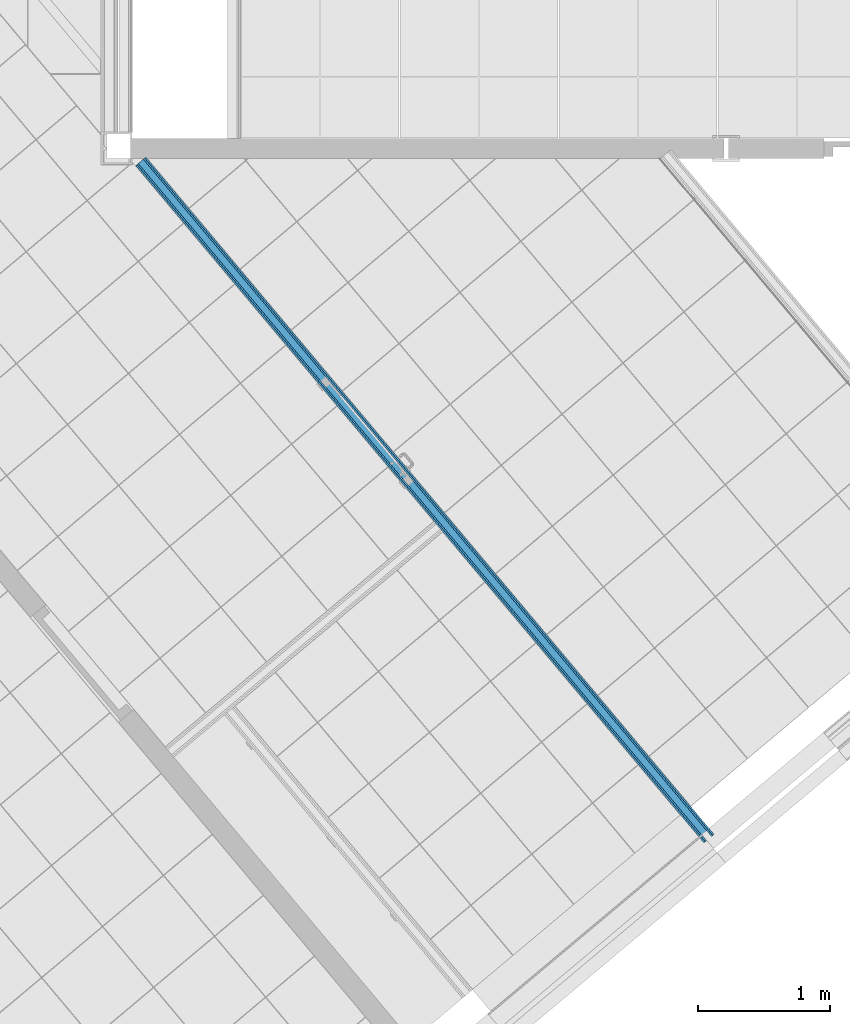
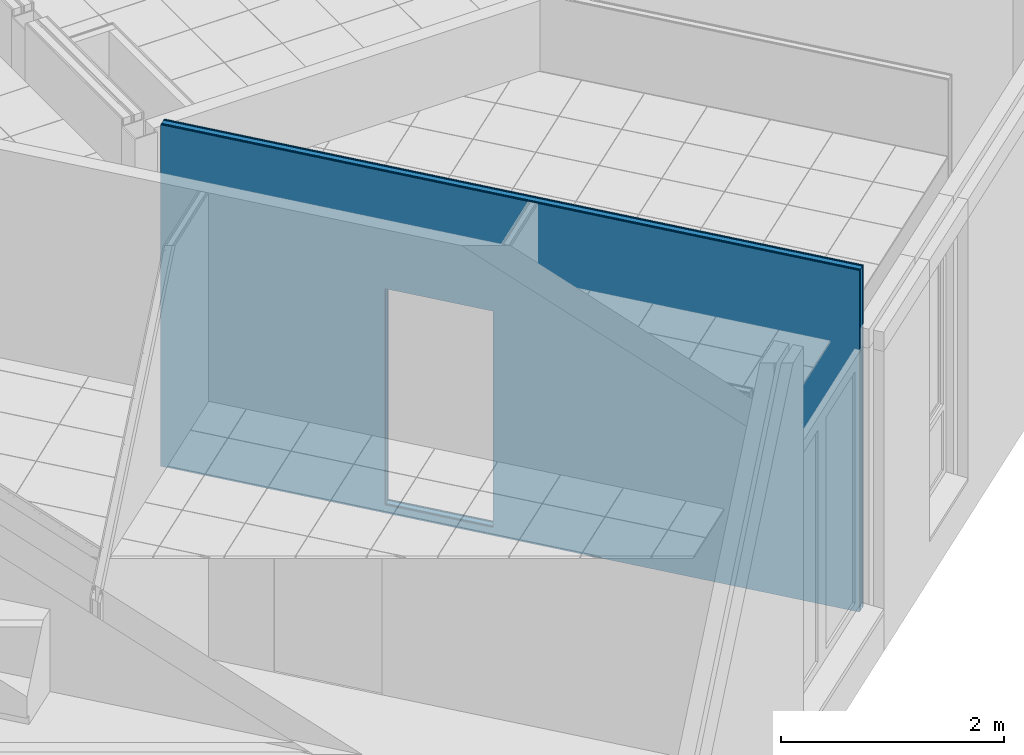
# One storey, part 24 of 338: 5 building element parts, 1 opening, 1 element without a shape of its own.
"""IFC2X3 building model written with IfcOpenShell, lengths in millimetres."""

from ifc_helpers import new_model, entity, si_unit, converted_unit, derived_unit, money_unit, direction, frame, origin_with_axes, place, context, subcontext, project, spatial, faceted_brep, material, type_object, element, aggregate, save


model = new_model("IFC2X3")

# Units and contexts
model_context = context("Model", 3, precision=0.01, world=origin_with_axes(), true_north=direction((0.0, 1.0)))
plan_context = context("Plan", 3, precision=0.01, world=origin_with_axes(), true_north=direction((0.0, 1.0)))
body_context = subcontext(model_context, "Body", "Model", "MODEL_VIEW")
ifc_project = project(units=[si_unit("LENGTHUNIT", "METRE", prefix="MILLI"), si_unit("AREAUNIT", "SQUARE_METRE"), si_unit("VOLUMEUNIT", "CUBIC_METRE"), converted_unit("PLANEANGLEUNIT", "DEGREE", entity("IfcPlaneAngleMeasure", 0.0174532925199), si_unit("PLANEANGLEUNIT", "RADIAN"), dimensions=[0, 0, 0, 0, 0, 0, 0]), money_unit("EUR"), converted_unit("TIMEUNIT", "Year", entity("IfcTimeMeasure", 31556926.0), si_unit("TIMEUNIT", "SECOND"), dimensions=[0, 0, 1, 0, 0, 0, 0]), si_unit("MASSUNIT", "GRAM", prefix="KILO"), si_unit("THERMODYNAMICTEMPERATUREUNIT", "DEGREE_CELSIUS"), si_unit("LUMINOUSINTENSITYUNIT", "LUMEN"), si_unit("ENERGYUNIT", "JOULE", prefix="MEGA"), derived_unit("THERMALCONDUCTANCEUNIT", [(si_unit("POWERUNIT", "WATT"), 1), (si_unit("LENGTHUNIT", "METRE"), -1), (si_unit("THERMODYNAMICTEMPERATUREUNIT", "KELVIN"), -1)]), derived_unit("SPECIFICHEATCAPACITYUNIT", [(si_unit("ENERGYUNIT", "JOULE"), 1), (si_unit("MASSUNIT", "GRAM", prefix="KILO"), -1), (si_unit("THERMODYNAMICTEMPERATUREUNIT", "KELVIN"), -1)]), derived_unit("MASSDENSITYUNIT", [(si_unit("MASSUNIT", "GRAM", prefix="KILO"), 1), (si_unit("VOLUMEUNIT", "CUBIC_METRE"), -1)])], contexts=[model_context, plan_context])

# Site, building, storey
site_placement = place(None, origin_with_axes())
site = spatial("IfcSite", under=ifc_project, at=site_placement, Name="Fortuinstraat Woensdrecht", CompositionType="ELEMENT")
building_placement = place(site_placement, origin_with_axes())
building = spatial("IfcBuilding", under=site, at=building_placement, Name="IKC Fortuna", CompositionType="ELEMENT")
storey_placement = place(building_placement, origin_with_axes())
storey = spatial("IfcBuildingStorey", under=building, at=storey_placement, Name="00 begane grond", CompositionType="ELEMENT", Elevation=0.0)

# Wall, opening, building element parts
wall_type = type_object("IfcWallType", Name="MS100 2.50.2A 100", PredefinedType="NOTDEFINED")
wall_placement = place(storey_placement, frame((30124.2804119, -3425.04117223, -90.0), z_axis=(0.0, 0.0, 1.0), x_axis=(-0.642787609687, 0.766044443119, 0.0)))
wall = element("IfcWall", 1, at=wall_placement, inside=storey, type_object=wall_type, Name="22_Wand_Binnenwand")
opening_placement = place(wall_placement, frame((4015.00282762, 0.0, 90.0), z_axis=(0.0, 0.0, 1.0), x_axis=(1.0, 0.0, 0.0)))
element("IfcOpeningElement", 2, at=opening_placement, cuts=wall, Name="32_Deur_h.01c", context=body_context, shape_type="Brep", body=[
    faceted_brep([(517.0, -200.0, 2367.0), (517.0, -200.0, 0.0), (517.0, 100.0, 0.0), (517.0, 100.0, 2367.0), (-517.0, -200.0, 2367.0), (-517.0, -200.0, 0.0), (-517.0, 100.0, 0.0), (-517.0, 100.0, 2367.0)], [[[0, 1, 2, 3]], [[0, 4, 5, 1]], [[1, 5, 6, 2]], [[3, 2, 6, 7]], [[4, 0, 3, 7]], [[5, 4, 7, 6]]]),
])
ifc_material_1 = material(Name="Gipsplaat")
building_element_part_1_placement = place(wall_placement, origin_with_axes())
building_element_part_1 = element("IfcBuildingElementPart", 3, at=building_element_part_1_placement, material=ifc_material_1, Name="Gipsplaat", context=body_context, shape_type="Brep", body=[
    faceted_brep([(6672.29275412, 100.0, 0.0), (0.0, 100.0, 0.0), (0.0, 100.0, 3740.0), (6672.29275412, 100.0, 3740.0), (4532.00282762, 100.0, 90.0), (4532.00282762, 100.0, 2457.0), (3498.00282762, 100.0, 2457.0), (3498.00282762, 100.0, 90.0), (6672.29275412, 87.5, 0.0), (0.0, 87.5, 0.0), (0.0, 87.5, 3740.0), (6672.29275412, 87.5, 3740.0), (4532.00282762, 87.5, 90.0), (4532.00282762, 87.5, 2457.0), (3498.00282762, 87.5, 2457.0), (3498.00282762, 87.5, 90.0)], [[[0, 1, 2, 3], [4, 5, 6, 7]], [[8, 9, 1, 0]], [[2, 1, 9, 10]], [[3, 2, 10, 11]], [[8, 0, 3, 11]], [[12, 13, 5, 4]], [[13, 14, 6, 5]], [[14, 15, 7, 6]], [[15, 12, 4, 7]], [[11, 10, 9, 8], [12, 15, 14, 13]]]),
])
building_element_part_2_placement = place(wall_placement, origin_with_axes())
building_element_part_2 = element("IfcBuildingElementPart", 4, at=building_element_part_2_placement, material=ifc_material_1, Name="Gipsplaat", context=body_context, shape_type="Brep", body=[
    faceted_brep([(6672.29275412, 87.5, 0.0), (0.0, 87.5, 0.0), (0.0, 87.5, 3740.0), (6672.29275412, 87.5, 3740.0), (4532.00282762, 87.5, 90.0), (4532.00282762, 87.5, 2457.0), (3498.00282762, 87.5, 2457.0), (3498.00282762, 87.5, 90.0), (6672.29275412, 75.0, 0.0), (0.0, 75.0, 0.0), (0.0, 75.0, 3740.0), (6672.29275412, 75.0, 3740.0), (4532.00282762, 75.0, 90.0), (4532.00282762, 75.0, 2457.0), (3498.00282762, 75.0, 2457.0), (3498.00282762, 75.0, 90.0)], [[[0, 1, 2, 3], [4, 5, 6, 7]], [[8, 9, 1, 0]], [[2, 1, 9, 10]], [[3, 2, 10, 11]], [[8, 0, 3, 11]], [[12, 13, 5, 4]], [[13, 14, 6, 5]], [[14, 15, 7, 6]], [[15, 12, 4, 7]], [[11, 10, 9, 8], [12, 15, 14, 13]]]),
])
ifc_material_2 = material(Name="Isolatie - Steenwol LSW")
building_element_part_3_placement = place(wall_placement, origin_with_axes())
building_element_part_3 = element("IfcBuildingElementPart", 5, at=building_element_part_3_placement, material=ifc_material_2, Name="Isolatie - Steenwol LSW", context=body_context, shape_type="Brep", body=[
    faceted_brep([(6672.29275412, 75.0, 0.0), (0.0, 75.0, 0.0), (0.0, 75.0, 3740.0), (6672.29275412, 75.0, 3740.0), (4532.00282762, 75.0, 90.0), (4532.00282762, 75.0, 2457.0), (3498.00282762, 75.0, 2457.0), (3498.00282762, 75.0, 90.0), (6672.29275412, 25.0, 0.0), (0.0, 25.0, 0.0), (0.0, 25.0, 3740.0), (6672.29275412, 25.0, 3740.0), (4532.00282762, 25.0, 90.0), (4532.00282762, 25.0, 2457.0), (3498.00282762, 25.0, 2457.0), (3498.00282762, 25.0, 90.0)], [[[0, 1, 2, 3], [4, 5, 6, 7]], [[8, 9, 1, 0]], [[2, 1, 9, 10]], [[3, 2, 10, 11]], [[8, 0, 3, 11]], [[12, 13, 5, 4]], [[13, 14, 6, 5]], [[14, 15, 7, 6]], [[15, 12, 4, 7]], [[11, 10, 9, 8], [12, 15, 14, 13]]]),
])
building_element_part_4_placement = place(wall_placement, origin_with_axes())
building_element_part_4 = element("IfcBuildingElementPart", 6, at=building_element_part_4_placement, material=ifc_material_1, Name="Gipsplaat", context=body_context, shape_type="Brep", body=[
    faceted_brep([(6672.29275412, 25.0, 0.0), (0.0, 25.0, 0.0), (0.0, 25.0, 3740.0), (6672.29275412, 25.0, 3740.0), (4532.00282762, 25.0, 90.0), (4532.00282762, 25.0, 2457.0), (3498.00282762, 25.0, 2457.0), (3498.00282762, 25.0, 90.0), (6672.29275412, 12.5, 0.0), (0.0, 12.5, 0.0), (0.0, 12.5, 3740.0), (6672.29275412, 12.5, 3740.0), (4532.00282762, 12.5, 90.0), (4532.00282762, 12.5, 2457.0), (3498.00282762, 12.5, 2457.0), (3498.00282762, 12.5, 90.0)], [[[0, 1, 2, 3], [4, 5, 6, 7]], [[8, 9, 1, 0]], [[2, 1, 9, 10]], [[3, 2, 10, 11]], [[8, 0, 3, 11]], [[12, 13, 5, 4]], [[13, 14, 6, 5]], [[14, 15, 7, 6]], [[15, 12, 4, 7]], [[11, 10, 9, 8], [12, 15, 14, 13]]]),
])
building_element_part_5_placement = place(wall_placement, origin_with_axes())
building_element_part_5 = element("IfcBuildingElementPart", 7, at=building_element_part_5_placement, material=ifc_material_1, Name="Gipsplaat", context=body_context, shape_type="Brep", body=[
    faceted_brep([(6672.29275412, 12.5, 0.0), (0.0, 12.5, 0.0), (0.0, 12.5, 3740.0), (6672.29275412, 12.5, 3740.0), (4532.00282762, 12.5, 90.0), (4532.00282762, 12.5, 2457.0), (3498.00282762, 12.5, 2457.0), (3498.00282762, 12.5, 90.0), (6672.29275412, 0.0, 0.0), (0.0, 0.0, 0.0), (0.0, 0.0, 3740.0), (6672.29275412, 0.0, 3740.0), (4532.00282762, 0.0, 90.0), (4532.00282762, 0.0, 2457.0), (3498.00282762, 0.0, 2457.0), (3498.00282762, 0.0, 90.0)], [[[0, 1, 2, 3], [4, 5, 6, 7]], [[8, 9, 1, 0]], [[2, 1, 9, 10]], [[3, 2, 10, 11]], [[8, 0, 3, 11]], [[12, 13, 5, 4]], [[13, 14, 6, 5]], [[14, 15, 7, 6]], [[15, 12, 4, 7]], [[11, 10, 9, 8], [12, 15, 14, 13]]]),
])
aggregate(wall, [building_element_part_1, building_element_part_2, building_element_part_3, building_element_part_4, building_element_part_5])

save(model, "model.ifc")
